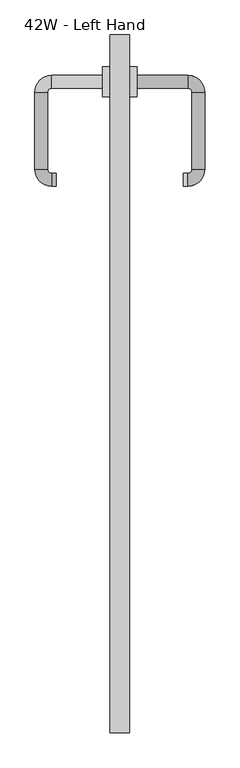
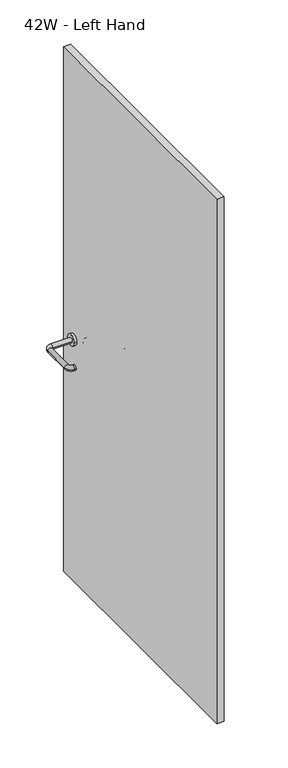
"""IFC4 building model written with IfcOpenShell, lengths in millimetres: furniture geometry, Steelcase - Montage - Door - Hinged Door : 42W - Left Hand."""

from ifc_helpers import new_model, si_unit, point, frame, frame_2d, origin, origin_with_axes, place, context, project, spatial, polyline, circle_curve, ellipse_curve, trimmed, segment, composite_curve, outline, extrude, source, transform, mapped, element, save
from ifc_brep_helpers import plane_surface, cylinder_surface, revolved_surface, advanced_brep


def furniture_42w_left_hand_3819f768(model_context):
    return source(origin(), model_context, "Body", "SolidModel", [
        extrude(outline(polyline([(41.2750004, 1079.5000015), (41.2750004, 38.1000015), (12.7000004, 38.1000015), (12.7000004, 1079.5000015), (41.2750004, 1079.5000015)])), origin_with_axes(), (0.0, 0.0, 1.0), 2171.7),
        advanced_brep(
        [(52.3875004, 1000.1250017, 1003.3), (52.3875004, 1019.1750017, 1003.3), (128.5875062, 1000.1250017, 1003.3), (128.5875062, 1019.1750017, 1003.3), (153.9875009, 993.775007, 1003.3), (134.9375009, 993.775007, 1003.3), (134.9375009, 879.4749954, 1003.3), (153.9875009, 879.4749954, 1003.3), (128.5875062, 854.0750007, 1003.3), (128.5875062, 873.1250007, 1003.3), (122.2375004, 873.1250007, 1003.3), (122.2375004, 854.0750007, 1003.3)],
        [
            (0, 1, circle_curve(frame((52.3875004, 1009.6500017, 1003.3), z_axis=(-1.0, 0.0, 0.0), x_axis=(0.0, 1.0, 0.0)), 9.525)),
            (1, 0, circle_curve(frame((52.3875004, 1009.6500017, 1003.3), z_axis=(-1.0, 0.0, 0.0), x_axis=(0.0, 1.0, 0.0)), 9.525)),
            (0, 2),
            (2, 3, circle_curve(frame((128.5875062, 1009.6500017, 1003.3), z_axis=(-1.0, 0.0, 0.0), x_axis=(0.0, 1.0, 0.0)), 9.525)),
            (3, 1),
            (3, 2, circle_curve(frame((128.5875062, 1009.6500017, 1003.3), z_axis=(-1.0, 0.0, 0.0), x_axis=(0.0, 1.0, 0.0)), 9.525)),
            (4, 3, circle_curve(frame((128.5875062, 993.775007, 1003.3), z_axis=(0.0, 0.0, 1.0), x_axis=(0.0, 1.0, 0.0)), 25.3999947)),
            (2, 5, circle_curve(frame((128.5875062, 993.775007, 1003.3), z_axis=(0.0, 0.0, -1.0), x_axis=(0.0, 1.0, 0.0)), 6.3499947)),
            (5, 4, circle_curve(frame((144.4625009, 993.775007, 1003.3), z_axis=(0.0, 1.0, 0.0), x_axis=(1.0, 0.0, 0.0)), 9.525)),
            (4, 5, circle_curve(frame((144.4625009, 993.775007, 1003.3), z_axis=(0.0, 1.0, 0.0), x_axis=(1.0, 0.0, 0.0)), 9.525)),
            (5, 6),
            (6, 7, circle_curve(frame((144.4625009, 879.4749954, 1003.3), z_axis=(0.0, 1.0, 0.0), x_axis=(1.0, 0.0, 0.0)), 9.525)),
            (7, 4),
            (7, 6, circle_curve(frame((144.4625009, 879.4749954, 1003.3), z_axis=(0.0, 1.0, 0.0), x_axis=(1.0, 0.0, 0.0)), 9.525)),
            (8, 7, circle_curve(frame((128.5875062, 879.4749954, 1003.3), z_axis=(0.0, 0.0, 1.0), x_axis=(1.0, 0.0, 0.0)), 25.3999947)),
            (6, 9, circle_curve(frame((128.5875062, 879.4749954, 1003.3), z_axis=(0.0, 0.0, -1.0), x_axis=(1.0, 0.0, 0.0)), 6.3499947)),
            (9, 8, circle_curve(frame((128.5875062, 863.6000007, 1003.3), z_axis=(1.0, 0.0, 0.0), x_axis=(0.0, -1.0, 0.0)), 9.525)),
            (8, 9, circle_curve(frame((128.5875062, 863.6000007, 1003.3), z_axis=(1.0, 0.0, 0.0), x_axis=(0.0, -1.0, 0.0)), 9.525)),
            (10, 11, circle_curve(frame((122.2375004, 863.6000007, 1003.3), z_axis=(-1.0, 0.0, 0.0), x_axis=(0.0, -1.0, 0.0)), 9.525)),
            (11, 10, circle_curve(frame((122.2375004, 863.6000007, 1003.3), z_axis=(-1.0, 0.0, 0.0), x_axis=(0.0, -1.0, 0.0)), 9.525)),
            (9, 10),
            (11, 8),
        ],
        [
            plane_surface(frame((52.3875004, 1009.6500017, 1003.3), z_axis=(-1.0, 0.0, 0.0), x_axis=(0.0, 0.0, 1.0))),
            cylinder_surface(frame((52.3875004, 1009.6500017, 1003.3), z_axis=(-1.0, 0.0, 0.0), x_axis=(0.0, 1.0, 0.0)), 9.525),
            revolved_surface(trimmed(ellipse_curve(frame((128.5875062, 1009.6500017, 1003.3), z_axis=(-1.0, 0.0, 0.0), x_axis=(0.0, 1.0, 0.0)), 9.525, 9.525), [point((128.5875062, 1000.1250017, 1003.3))], [point((128.5875062, 1019.1750017, 1003.3))], True, "CARTESIAN"), (128.5875062, 993.775007, 1003.3), (0.0, 0.0, -1.0)),
            revolved_surface(trimmed(ellipse_curve(frame((128.5875062, 1009.6500017, 1003.3), z_axis=(-1.0, 0.0, 0.0), x_axis=(0.0, 1.0, 0.0)), 9.525, 9.525), [point((128.5875062, 1019.1750017, 1003.3))], [point((128.5875062, 1000.1250017, 1003.3))], True, "CARTESIAN"), (128.5875062, 993.775007, 1003.3), (0.0, 0.0, -1.0)),
            cylinder_surface(frame((144.4625009, 993.775007, 1003.3), z_axis=(0.0, 1.0, 0.0), x_axis=(1.0, 0.0, 0.0)), 9.525),
            revolved_surface(trimmed(ellipse_curve(frame((144.4625009, 879.4749954, 1003.3), z_axis=(0.0, 1.0, 0.0), x_axis=(1.0, 0.0, 0.0)), 9.525, 9.525), [point((134.9375009, 879.4749954, 1003.3))], [point((153.9875009, 879.4749954, 1003.3))], True, "CARTESIAN"), (128.5875062, 879.4749954, 1003.3), (0.0, 0.0, -1.0)),
            revolved_surface(trimmed(ellipse_curve(frame((144.4625009, 879.4749954, 1003.3), z_axis=(0.0, 1.0, 0.0), x_axis=(1.0, 0.0, 0.0)), 9.525, 9.525), [point((153.9875009, 879.4749954, 1003.3))], [point((134.9375009, 879.4749954, 1003.3))], True, "CARTESIAN"), (128.5875062, 879.4749954, 1003.3), (0.0, 0.0, -1.0)),
            plane_surface(frame((122.2375004, 863.6000007, 1003.3), z_axis=(-1.0, 0.0, 0.0), x_axis=(0.0, 0.0, 1.0))),
            cylinder_surface(frame((128.5875062, 863.6000007, 1003.3), z_axis=(1.0, 0.0, 0.0), x_axis=(0.0, -1.0, 0.0)), 9.525),
        ],
        [
            (0, [[1, 2]]),
            (1, [[-1, 3, 4, 5]]),
            (1, [[-2, -5, 6, -3]]),
            (2, [[7, -4, 8, 9]]),
            (3, [[-8, -6, -7, 10]]),
            (4, [[-9, 11, 12, 13]]),
            (4, [[-10, -13, 14, -11]]),
            (5, [[15, -12, 16, 17]]),
            (6, [[-16, -14, -15, 18]]),
            (7, [[19, 20]]),
            (8, [[-17, 21, -20, 22]]),
            (8, [[-18, -22, -19, -21]]),
        ],
    ),
        advanced_brep(
        [(1.5875004, 1019.1750013, 1003.3), (1.5875004, 1000.1250013, 1003.3), (-74.6125054, 1019.1750013, 1003.3), (-74.6125054, 1000.1250013, 1003.3), (-80.9624997, 993.775007, 1003.3), (-100.0124997, 993.775007, 1003.3), (-100.0124997, 879.4749954, 1003.3), (-80.9624997, 879.4749954, 1003.3), (-74.6125054, 873.1250012, 1003.3), (-74.6125054, 854.0750012, 1003.3), (-68.2624996, 854.0750012, 1003.3), (-68.2624996, 873.1250012, 1003.3)],
        [
            (0, 1, circle_curve(frame((1.5875004, 1009.6500013, 1003.3), z_axis=(1.0, 0.0, 0.0), x_axis=(0.0, -1.0, 0.0)), 9.525)),
            (1, 0, circle_curve(frame((1.5875004, 1009.6500013, 1003.3), z_axis=(1.0, 0.0, 0.0), x_axis=(0.0, -1.0, 0.0)), 9.525)),
            (0, 2),
            (2, 3, circle_curve(frame((-74.6125054, 1009.6500013, 1003.3), z_axis=(1.0, 0.0, 0.0), x_axis=(0.0, -1.0, 0.0)), 9.525)),
            (3, 1),
            (3, 2, circle_curve(frame((-74.6125054, 1009.6500013, 1003.3), z_axis=(1.0, 0.0, 0.0), x_axis=(0.0, -1.0, 0.0)), 9.525)),
            (4, 3, circle_curve(frame((-74.6125054, 993.775007, 1003.3), z_axis=(0.0, 0.0, -1.0), x_axis=(0.0, 1.0, 0.0)), 6.3499943)),
            (2, 5, circle_curve(frame((-74.6125054, 993.775007, 1003.3), z_axis=(0.0, 0.0, 1.0), x_axis=(0.0, 1.0, 0.0)), 25.3999943)),
            (5, 4, circle_curve(frame((-90.4874997, 993.775007, 1003.3), z_axis=(0.0, 1.0, 0.0), x_axis=(1.0, 0.0, 0.0)), 9.525)),
            (4, 5, circle_curve(frame((-90.4874997, 993.775007, 1003.3), z_axis=(0.0, 1.0, 0.0), x_axis=(1.0, 0.0, 0.0)), 9.525)),
            (5, 6),
            (6, 7, circle_curve(frame((-90.4874997, 879.4749954, 1003.3), z_axis=(0.0, 1.0, 0.0), x_axis=(1.0, 0.0, 0.0)), 9.525)),
            (7, 4),
            (7, 6, circle_curve(frame((-90.4874997, 879.4749954, 1003.3), z_axis=(0.0, 1.0, 0.0), x_axis=(1.0, 0.0, 0.0)), 9.525)),
            (8, 7, circle_curve(frame((-74.6125054, 879.4749954, 1003.3), z_axis=(0.0, 0.0, -1.0), x_axis=(-1.0, 0.0, 0.0)), 6.3499943)),
            (6, 9, circle_curve(frame((-74.6125054, 879.4749954, 1003.3), z_axis=(0.0, 0.0, 1.0), x_axis=(-1.0, 0.0, 0.0)), 25.3999943)),
            (9, 8, circle_curve(frame((-74.6125054, 863.6000012, 1003.3), z_axis=(-1.0, 0.0, 0.0), x_axis=(0.0, 1.0, 0.0)), 9.525)),
            (8, 9, circle_curve(frame((-74.6125054, 863.6000012, 1003.3), z_axis=(-1.0, 0.0, 0.0), x_axis=(0.0, 1.0, 0.0)), 9.525)),
            (10, 11, circle_curve(frame((-68.2624996, 863.6000012, 1003.3), z_axis=(1.0, 0.0, 0.0), x_axis=(0.0, 1.0, 0.0)), 9.525)),
            (11, 10, circle_curve(frame((-68.2624996, 863.6000012, 1003.3), z_axis=(1.0, 0.0, 0.0), x_axis=(0.0, 1.0, 0.0)), 9.525)),
            (9, 10),
            (11, 8),
        ],
        [
            plane_surface(frame((1.5875004, 1009.6500013, 1003.3), z_axis=(1.0, 0.0, 0.0), x_axis=(0.0, 0.0, 1.0))),
            cylinder_surface(frame((1.5875004, 1009.6500013, 1003.3), z_axis=(1.0, 0.0, 0.0), x_axis=(0.0, -1.0, 0.0)), 9.525),
            revolved_surface(trimmed(ellipse_curve(frame((-74.6125054, 1009.6500013, 1003.3), z_axis=(1.0, 0.0, 0.0), x_axis=(0.0, -1.0, 0.0)), 9.525, 9.525), [point((-74.6125054, 1019.1750013, 1003.3))], [point((-74.6125054, 1000.1250013, 1003.3))], True, "CARTESIAN"), (-74.6125054, 993.775007, 1003.3), (0.0, 0.0, 1.0)),
            revolved_surface(trimmed(ellipse_curve(frame((-74.6125054, 1009.6500013, 1003.3), z_axis=(1.0, 0.0, 0.0), x_axis=(0.0, -1.0, 0.0)), 9.525, 9.525), [point((-74.6125054, 1000.1250013, 1003.3))], [point((-74.6125054, 1019.1750013, 1003.3))], True, "CARTESIAN"), (-74.6125054, 993.775007, 1003.3), (0.0, 0.0, 1.0)),
            cylinder_surface(frame((-90.4874997, 993.775007, 1003.3), z_axis=(0.0, 1.0, 0.0), x_axis=(1.0, 0.0, 0.0)), 9.525),
            revolved_surface(trimmed(ellipse_curve(frame((-90.4874997, 879.4749954, 1003.3), z_axis=(0.0, 1.0, 0.0), x_axis=(1.0, 0.0, 0.0)), 9.525, 9.525), [point((-100.0124997, 879.4749954, 1003.3))], [point((-80.9624997, 879.4749954, 1003.3))], True, "CARTESIAN"), (-74.6125054, 879.4749954, 1003.3), (0.0, 0.0, 1.0)),
            revolved_surface(trimmed(ellipse_curve(frame((-90.4874997, 879.4749954, 1003.3), z_axis=(0.0, 1.0, 0.0), x_axis=(1.0, 0.0, 0.0)), 9.525, 9.525), [point((-80.9624997, 879.4749954, 1003.3))], [point((-100.0124997, 879.4749954, 1003.3))], True, "CARTESIAN"), (-74.6125054, 879.4749954, 1003.3), (0.0, 0.0, 1.0)),
            plane_surface(frame((-68.2624996, 863.6000012, 1003.3), z_axis=(1.0, 0.0, 0.0), x_axis=(0.0, 0.0, 1.0))),
            cylinder_surface(frame((-74.6125054, 863.6000012, 1003.3), z_axis=(-1.0, 0.0, 0.0), x_axis=(0.0, 1.0, 0.0)), 9.525),
        ],
        [
            (0, [[1, 2]]),
            (1, [[-1, 3, 4, 5]]),
            (1, [[-2, -5, 6, -3]]),
            (2, [[7, -4, 8, 9]]),
            (3, [[-8, -6, -7, 10]]),
            (4, [[-9, 11, 12, 13]]),
            (4, [[-10, -13, 14, -11]]),
            (5, [[15, -12, 16, 17]]),
            (6, [[-16, -14, -15, 18]]),
            (7, [[19, 20]]),
            (8, [[-17, 21, -20, 22]]),
            (8, [[-18, -22, -19, -21]]),
        ],
    ),
        extrude(outline(composite_curve([segment(trimmed(circle_curve(frame_2d((1009.6500015, 1003.3)), 22.2250002), [point((987.4250012, 1003.3))], [point((1031.8750017, 1003.3))], False, "CARTESIAN"), True, "CONTINUOUS"), segment(trimmed(circle_curve(frame_2d((1009.6500015, 1003.3)), 22.2250002), [point((1031.8750017, 1003.3))], [point((987.4250012, 1003.3))], False, "CARTESIAN"), True, "CONTINUOUS")], self_intersect=False)), frame((1.5240004, 0.0, 0.0), z_axis=(1.0, 0.0, 0.0), x_axis=(0.0, 1.0, 0.0)), (0.0, 0.0, 1.0), 11.176),
        extrude(outline(composite_curve([segment(trimmed(circle_curve(frame_2d((1009.6500015, 1003.3)), 22.2250002), [point((987.4250012, 1003.3))], [point((1031.8750017, 1003.3))], False, "CARTESIAN"), True, "CONTINUOUS"), segment(trimmed(circle_curve(frame_2d((1009.6500015, 1003.3)), 22.2250002), [point((1031.8750017, 1003.3))], [point((987.4250012, 1003.3))], False, "CARTESIAN"), True, "CONTINUOUS")], self_intersect=False)), frame((41.2750004, 0.0, 0.0), z_axis=(1.0, 0.0, 0.0), x_axis=(0.0, 1.0, 0.0)), (0.0, 0.0, 1.0), 11.176),
    ])


if __name__ == "__main__":
    model = new_model("IFC4")
    model_context = context("Model", 3, world=origin())
    ifc_project = project(units=[si_unit("LENGTHUNIT", "METRE", prefix="MILLI")], contexts=[model_context])
    site = spatial("IfcSite", under=ifc_project)
    building = spatial("IfcBuilding", under=site)
    placement = place(None, origin())
    furniture_42w_left_hand_shape = furniture_42w_left_hand_3819f768(model_context)
    element("IfcFurniture", 1, ObjectType="Steelcase - Montage - Door - Hinged Door : 42W - Left Hand", at=placement, inside=building, context=model_context, shape_type="MappedRepresentation", body=[
        mapped(furniture_42w_left_hand_shape, transform((0.0, 0.0, 0.0), x_axis=(1.0, 0.0, 0.0), y_axis=(0.0, 1.0, 0.0), z_axis=(0.0, 0.0, 1.0))),
    ])
    save(model, "model.ifc")
